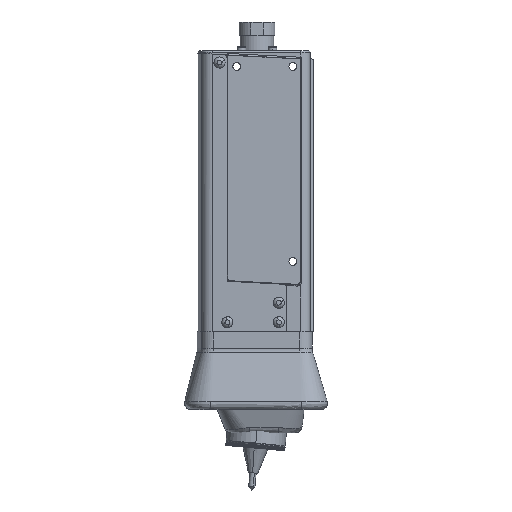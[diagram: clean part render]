
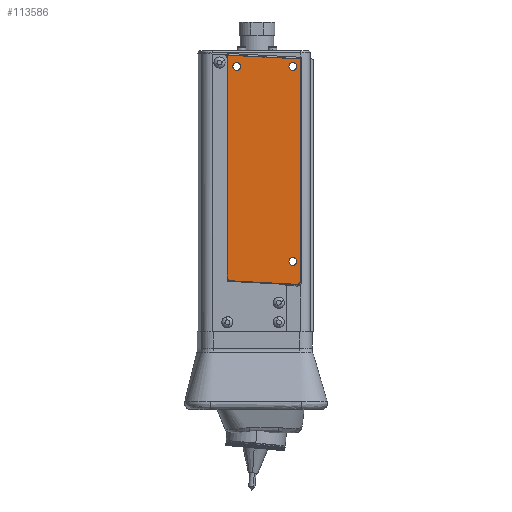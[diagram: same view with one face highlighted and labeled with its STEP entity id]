
A CAD part, left-side view. The second image highlights one B-rep face of the part: STEP entity #113586.
In plain terms, the highlighted planar face has unit normal (-1, 0, 0).
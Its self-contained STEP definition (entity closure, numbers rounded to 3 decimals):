
#16308 = EDGE_CURVE ( 'NONE', #16310, #16388, #129006, .T. ) ;
#16310 = VERTEX_POINT ( 'NONE', #129008 ) ;
#16388 = VERTEX_POINT ( 'NONE', #129326 ) ;
#16407 = VERTEX_POINT ( 'NONE', #129414 ) ;
#16416 = EDGE_CURVE ( 'NONE', #16407, #16423, #129401, .T. ) ;
#16423 = VERTEX_POINT ( 'NONE', #129422 ) ;
#16430 = VERTEX_POINT ( 'NONE', #129467 ) ;
#16432 = EDGE_CURVE ( 'NONE', #16430, #16433, #129444, .T. ) ;
#16433 = VERTEX_POINT ( 'NONE', #129439 ) ;
#16467 = VERTEX_POINT ( 'NONE', #129508 ) ;
#16469 = EDGE_CURVE ( 'NONE', #16475, #16467, #129506, .T. ) ;
#16475 = VERTEX_POINT ( 'NONE', #129550 ) ;
#99099 = DIRECTION ( 'NONE',  ( 0., 0., 1. ) ) ;
#99101 = DIRECTION ( 'NONE',  ( -1., 0., 0. ) ) ;
#99103 = CARTESIAN_POINT ( 'NONE',  ( -64.5, 49., 170. ) ) ;
#99105 = AXIS2_PLACEMENT_3D ( 'NONE', #99103, #99101, #99099 ) ;
#99106 = CIRCLE ( 'NONE', #99105, 2.5 ) ;
#99157 = DIRECTION ( 'NONE',  ( 0., -0.999, -0.052 ) ) ;
#99159 = VECTOR ( 'NONE', #99157, 1000. ) ;
#99161 = CARTESIAN_POINT ( 'NONE',  ( -64.5, 7.989, 30.223 ) ) ;
#99163 = LINE ( 'NONE', #99161, #99159 ) ;
#99221 = DIRECTION ( 'NONE',  ( 0., 0., 1. ) ) ;
#99223 = DIRECTION ( 'NONE',  ( -1., 0., 0. ) ) ;
#99224 = CARTESIAN_POINT ( 'NONE',  ( -64.5, 13., 170. ) ) ;
#99226 = AXIS2_PLACEMENT_3D ( 'NONE', #99224, #99223, #99221 ) ;
#99228 = CIRCLE ( 'NONE', #99226, 2.5 ) ;
#99286 = DIRECTION ( 'NONE',  ( 0., 0., 1. ) ) ;
#99288 = DIRECTION ( 'NONE',  ( -1., 0., 0. ) ) ;
#99290 = CARTESIAN_POINT ( 'NONE',  ( -64.5, 13., 45. ) ) ;
#99292 = AXIS2_PLACEMENT_3D ( 'NONE', #99290, #99288, #99286 ) ;
#99295 = CIRCLE ( 'NONE', #99292, 2.5 ) ;
#99455 = DIRECTION ( 'NONE',  ( 0., 0., 1. ) ) ;
#99457 = DIRECTION ( 'NONE',  ( -1., 0., 0. ) ) ;
#99459 = CARTESIAN_POINT ( 'NONE',  ( -64.5, 53., 34.365 ) ) ;
#99460 = AXIS2_PLACEMENT_3D ( 'NONE', #99459, #99457, #99455 ) ;
#99462 = PLANE ( 'NONE',  #99460 ) ;
#99467 = FACE_OUTER_BOUND ( 'NONE', #113376, .T. ) ;
#99468 = FACE_BOUND ( 'NONE', #113368, .T. ) ;
#99470 = FACE_BOUND ( 'NONE', #113597, .T. ) ;
#99471 = FACE_BOUND ( 'NONE', #113258, .T. ) ;
#99542 = CARTESIAN_POINT ( 'NONE',  ( -64.5, 10.315, 30.344 ) ) ;
#99548 = CARTESIAN_POINT ( 'NONE',  ( -64.5, 53.093, 32.586 ) ) ;
#99565 = CARTESIAN_POINT ( 'NONE',  ( -64.5, 10.21, 30.342 ) ) ;
#99567 = CARTESIAN_POINT ( 'NONE',  ( -64.5, 10.245, 30.342 ) ) ;
#99569 = CARTESIAN_POINT ( 'NONE',  ( -64.5, 10.28, 30.343 ) ) ;
#99571 = CARTESIAN_POINT ( 'NONE',  ( -64.5, 10.315, 30.344 ) ) ;
#99579 =( BOUNDED_CURVE ( )  B_SPLINE_CURVE ( 3, ( #99571, #99569, #99567, #99565 ),
 .UNSPECIFIED., .F., .T. ) 
 B_SPLINE_CURVE_WITH_KNOTS ( ( 4, 4 ),
 ( 5.476, 5.528 ),
 .UNSPECIFIED. ) 
 CURVE ( )  GEOMETRIC_REPRESENTATION_ITEM ( )  RATIONAL_B_SPLINE_CURVE ( ( 1., 1., 1., 1. ) ) 
 REPRESENTATION_ITEM ( '' )  );
#101739 = DIRECTION ( 'NONE',  ( 0., 0., 1. ) ) ;
#101741 = DIRECTION ( 'NONE',  ( -1., 0., 0. ) ) ;
#101743 = CARTESIAN_POINT ( 'NONE',  ( -64.5, 53., 34.365 ) ) ;
#101745 = AXIS2_PLACEMENT_3D ( 'NONE', #101743, #101741, #101739 ) ;
#101747 = CIRCLE ( 'NONE', #101745, 1.781 ) ;
#101799 = DIRECTION ( 'NONE',  ( 0., 0., 1. ) ) ;
#101801 = VECTOR ( 'NONE', #101799, 1000. ) ;
#101803 = CARTESIAN_POINT ( 'NONE',  ( -64.5, 8.219, 30.004 ) ) ;
#101816 = LINE ( 'NONE', #101803, #101801 ) ;
#101919 = CARTESIAN_POINT ( 'NONE',  ( -64.5, 54.781, 34.365 ) ) ;
#101921 = DIRECTION ( 'NONE',  ( 0., 0., -1. ) ) ;
#101922 = VECTOR ( 'NONE', #101921, 1000. ) ;
#101924 = CARTESIAN_POINT ( 'NONE',  ( -64.5, 54.781, 34.365 ) ) ;
#101925 = LINE ( 'NONE', #101924, #101922 ) ;
#101931 = CARTESIAN_POINT ( 'NONE',  ( -64.5, 54.781, 177.237 ) ) ;
#101933 = DIRECTION ( 'NONE',  ( 0., 0.999, 0.052 ) ) ;
#101935 = VECTOR ( 'NONE', #101933, 1000. ) ;
#101937 = CARTESIAN_POINT ( 'NONE',  ( -64.5, 8.011, 174.786 ) ) ;
#101938 = LINE ( 'NONE', #101937, #101935 ) ;
#101944 = CARTESIAN_POINT ( 'NONE',  ( -64.5, 8.219, 174.797 ) ) ;
#113253 = EDGE_CURVE ( 'NONE', #16433, #16430, #99106, .T. ) ;
#113258 = EDGE_LOOP ( 'NONE', ( #113590, #113593 ) ) ;
#113361 = ORIENTED_EDGE ( 'NONE', *, *, #113467, .F. ) ;
#113364 = ORIENTED_EDGE ( 'NONE', *, *, #16416, .F. ) ;
#113368 = EDGE_LOOP ( 'NONE', ( #113370, #113372 ) ) ;
#113370 = ORIENTED_EDGE ( 'NONE', *, *, #113411, .F. ) ;
#113372 = ORIENTED_EDGE ( 'NONE', *, *, #16469, .F. ) ;
#113376 = EDGE_LOOP ( 'NONE', ( #113380, #113606, #113638, #113640, #113815, #113823, #113764 ) ) ;
#113380 = ORIENTED_EDGE ( 'NONE', *, *, #113383, .T. ) ;
#113383 = EDGE_CURVE ( 'NONE', #113621, #113636, #99163, .T. ) ;
#113411 = EDGE_CURVE ( 'NONE', #16467, #16475, #99295, .T. ) ;
#113467 = EDGE_CURVE ( 'NONE', #16423, #16407, #99228, .T. ) ;
#113586 = ADVANCED_FACE ( 'NONE', ( #99471, #99470, #99468, #99467 ), #99462, .T. ) ;
#113590 = ORIENTED_EDGE ( 'NONE', *, *, #113253, .F. ) ;
#113593 = ORIENTED_EDGE ( 'NONE', *, *, #16432, .F. ) ;
#113597 = EDGE_LOOP ( 'NONE', ( #113361, #113364 ) ) ;
#113606 = ORIENTED_EDGE ( 'NONE', *, *, #113610, .T. ) ;
#113610 = EDGE_CURVE ( 'NONE', #113636, #16310, #99579, .T. ) ;
#113621 = VERTEX_POINT ( 'NONE', #99548 ) ;
#113636 = VERTEX_POINT ( 'NONE', #99542 ) ;
#113638 = ORIENTED_EDGE ( 'NONE', *, *, #16308, .T. ) ;
#113640 = ORIENTED_EDGE ( 'NONE', *, *, #113810, .T. ) ;
#113764 = ORIENTED_EDGE ( 'NONE', *, *, #113767, .T. ) ;
#113767 = EDGE_CURVE ( 'NONE', #113829, #113621, #101747, .T. ) ;
#113810 = EDGE_CURVE ( 'NONE', #16388, #113813, #101816, .T. ) ;
#113813 = VERTEX_POINT ( 'NONE', #101944 ) ;
#113815 = ORIENTED_EDGE ( 'NONE', *, *, #113817, .T. ) ;
#113817 = EDGE_CURVE ( 'NONE', #113813, #113820, #101938, .T. ) ;
#113820 = VERTEX_POINT ( 'NONE', #101931 ) ;
#113823 = ORIENTED_EDGE ( 'NONE', *, *, #113826, .T. ) ;
#113826 = EDGE_CURVE ( 'NONE', #113820, #113829, #101925, .T. ) ;
#113829 = VERTEX_POINT ( 'NONE', #101919 ) ;
#129006 =( BOUNDED_CURVE ( )  B_SPLINE_CURVE ( 3, ( #129061, #129060, #129059, #129058 ),
 .UNSPECIFIED., .F., .F. ) 
 B_SPLINE_CURVE_WITH_KNOTS ( ( 4, 4 ),
 ( 5.528, 7.091 ),
 .UNSPECIFIED. ) 
 CURVE ( )  GEOMETRIC_REPRESENTATION_ITEM ( )  RATIONAL_B_SPLINE_CURVE ( ( 1., 0.807, 0.807, 1. ) ) 
 REPRESENTATION_ITEM ( '' )  );
#129008 = CARTESIAN_POINT ( 'NONE',  ( -64.5, 10.21, 30.342 ) ) ;
#129058 = CARTESIAN_POINT ( 'NONE',  ( -64.5, 8.219, 32.334 ) ) ;
#129059 = CARTESIAN_POINT ( 'NONE',  ( -64.5, 8.219, 31.165 ) ) ;
#129060 = CARTESIAN_POINT ( 'NONE',  ( -64.5, 9.042, 30.342 ) ) ;
#129061 = CARTESIAN_POINT ( 'NONE',  ( -64.5, 10.21, 30.342 ) ) ;
#129326 = CARTESIAN_POINT ( 'NONE',  ( -64.5, 8.219, 32.334 ) ) ;
#129386 = DIRECTION ( 'NONE',  ( 0., 0., 1. ) ) ;
#129388 = DIRECTION ( 'NONE',  ( -1., 0., 0. ) ) ;
#129389 = CARTESIAN_POINT ( 'NONE',  ( -64.5, 13., 170. ) ) ;
#129400 = AXIS2_PLACEMENT_3D ( 'NONE', #129389, #129388, #129386 ) ;
#129401 = CIRCLE ( 'NONE', #129400, 2.5 ) ;
#129414 = CARTESIAN_POINT ( 'NONE',  ( -64.5, 13., 167.5 ) ) ;
#129422 = CARTESIAN_POINT ( 'NONE',  ( -64.5, 13., 172.5 ) ) ;
#129439 = CARTESIAN_POINT ( 'NONE',  ( -64.5, 49., 172.5 ) ) ;
#129440 = DIRECTION ( 'NONE',  ( 0., 0., 1. ) ) ;
#129441 = DIRECTION ( 'NONE',  ( -1., 0., 0. ) ) ;
#129442 = CARTESIAN_POINT ( 'NONE',  ( -64.5, 49., 170. ) ) ;
#129443 = AXIS2_PLACEMENT_3D ( 'NONE', #129442, #129441, #129440 ) ;
#129444 = CIRCLE ( 'NONE', #129443, 2.5 ) ;
#129467 = CARTESIAN_POINT ( 'NONE',  ( -64.5, 49., 167.5 ) ) ;
#129506 = CIRCLE ( 'NONE', #129567, 2.5 ) ;
#129508 = CARTESIAN_POINT ( 'NONE',  ( -64.5, 13., 47.5 ) ) ;
#129550 = CARTESIAN_POINT ( 'NONE',  ( -64.5, 13., 42.5 ) ) ;
#129564 = DIRECTION ( 'NONE',  ( 0., 0., 1. ) ) ;
#129565 = DIRECTION ( 'NONE',  ( -1., 0., 0. ) ) ;
#129566 = CARTESIAN_POINT ( 'NONE',  ( -64.5, 13., 45. ) ) ;
#129567 = AXIS2_PLACEMENT_3D ( 'NONE', #129566, #129565, #129564 ) ;
